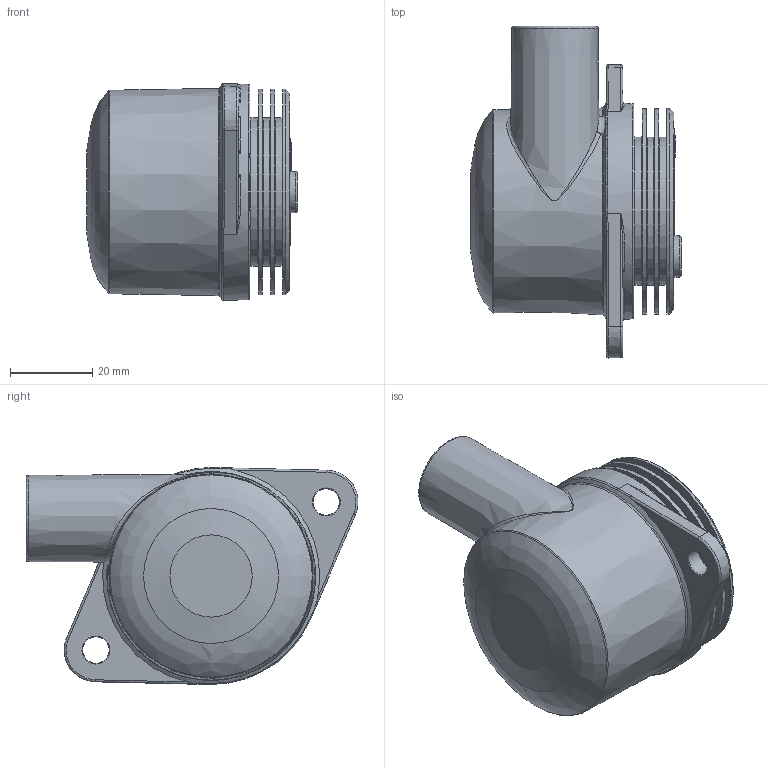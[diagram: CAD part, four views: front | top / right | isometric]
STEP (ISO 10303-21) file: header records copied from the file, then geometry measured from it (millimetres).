
FILE_DESCRIPTION(/* description */ (''),/* implementation_level */ '2;1');
FILE_NAME(/* name */ 'model4.stp',/* time_stamp */ '2018-04-06T10:21:53+02:00',/* author */ (''),/* organization */ (''),/* preprocessor_version */ 'ST-DEVELOPER v16',/* originating_system */ 'SIEMENS PLM Software NX 11.0',/* authorisation */ '');
FILE_SCHEMA (('AUTOMOTIVE_DESIGN { 1 0 10303 214 3 1 1 1 }'));
Length unit declared in the file: millimetre
Products named in the file (1): model4
Bounding box: 51.2 x 80.71 x 52.77 mm (x, y, z)
Volume: 99960.5 mm3; surface area: 21845.8 mm2
Topology: 1 solids, 9 shells, 190 faces, 421 edges, 251 vertices
Faces by surface type: plane 59, bspline 51, torus 32, cylinder 29, cone 19
Full cylindrical faces by diameter (mm): 6.4 x2, 10 x1, 36 x4, 50 x3
Entity records: 6209 total; most frequent: CARTESIAN_POINT 2654, ORIENTED_EDGE 708, DIRECTION 679, EDGE_CURVE 354, AXIS2_PLACEMENT_3D 300, EDGE_LOOP 240, VERTEX_POINT 234, ADVANCED_FACE 187
